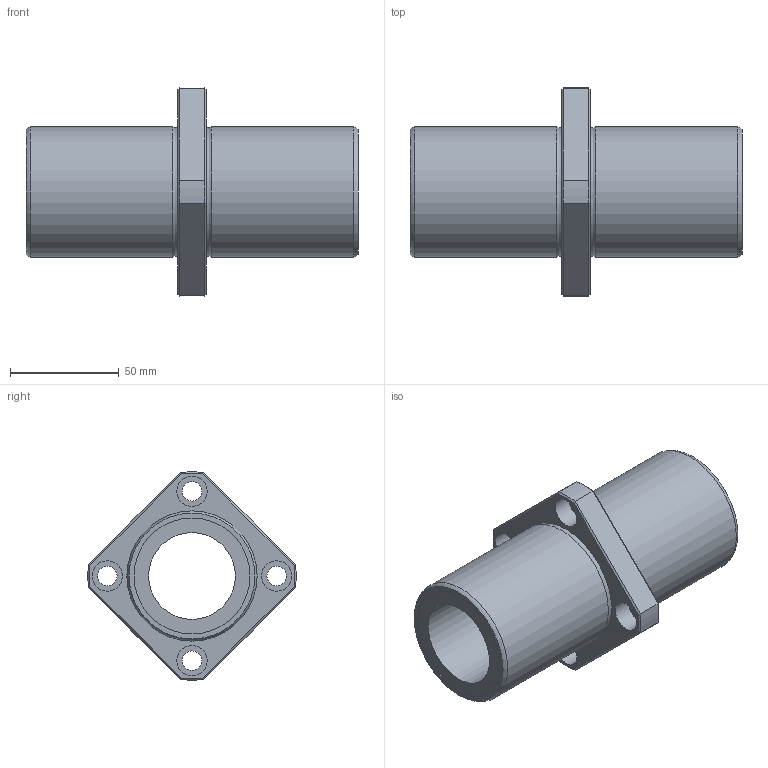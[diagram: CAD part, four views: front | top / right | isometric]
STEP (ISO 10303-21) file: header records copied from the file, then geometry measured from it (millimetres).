
FILE_DESCRIPTION((''),'2;1');
FILE_NAME('D:\製品 (図面)\カタログ用3D\リニアベアリング関連\STEP形式\LFDKC\LFDKC40.stp','2010-06-03T09:39:22',('Tsuchiya'),(''),'Autodesk Inventor 10','Autodesk Inventor 10','');
FILE_SCHEMA(('AUTOMOTIVE_DESIGN { 1 0 10303 214 1 1 1 1 }'));
Length unit declared in the file: millimetre
Products named in the file (1): LFDKC40
Bounding box: 153 x 95.93 x 95.93 mm (x, y, z)
Volume: 267899.8 mm3; surface area: 58970.9 mm2
Topology: 1 solids, 1 shells, 51 faces, 103 edges, 62 vertices
Faces by surface type: plane 22, cylinder 17, cone 8, torus 2, bspline 2
Full cylindrical faces by diameter (mm): 9 x4, 14 x4, 40 x1, 53.4 x2, 60 x2
Entity records: 1413 total; most frequent: CARTESIAN_POINT 372, DIRECTION 216, ORIENTED_EDGE 172, AXIS2_PLACEMENT_3D 96, EDGE_CURVE 86, EDGE_LOOP 86, VERTEX_POINT 62, FACE_OUTER_BOUND 51
